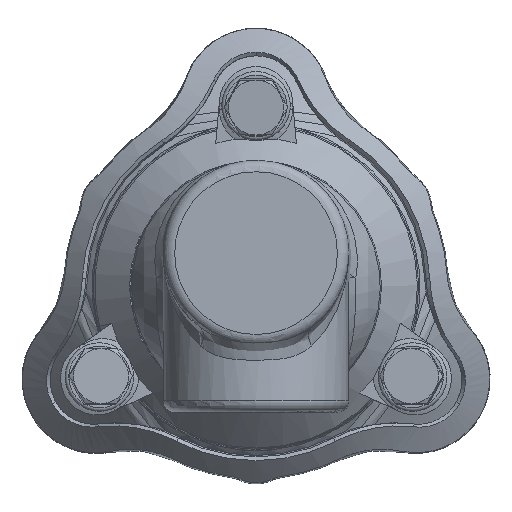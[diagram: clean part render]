
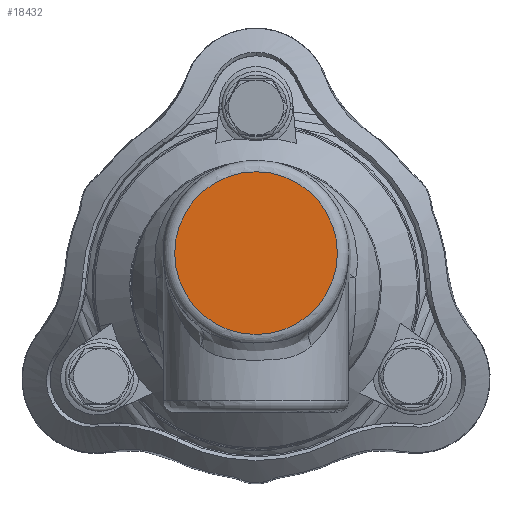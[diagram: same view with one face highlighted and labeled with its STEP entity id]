
A CAD part, top view. The second image highlights one B-rep face of the part: STEP entity #18432.
In plain terms, the highlighted planar face has unit normal (0, 0, 1).
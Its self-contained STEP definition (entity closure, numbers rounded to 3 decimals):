
#255 = CARTESIAN_POINT ( 'NONE',  ( 35.5, 14.369, 86. ) ) ;
#377 = AXIS2_PLACEMENT_3D ( 'NONE', #13303, #13304, #13305 ) ;
#7049 = EDGE_CURVE ( 'NONE', #15371, #15371, #11452, .T. ) ;
#8248 = CARTESIAN_POINT ( 'NONE',  ( 0., 14.369, 86. ) ) ;
#8252 = PLANE ( 'NONE',  #8646 ) ;
#8319 = DIRECTION ( 'NONE',  ( 0., 0., 1. ) ) ;
#8320 = DIRECTION ( 'NONE',  ( 1., 0., 0. ) ) ;
#8646 = AXIS2_PLACEMENT_3D ( 'NONE', #8248, #8319, #8320 ) ;
#9031 = EDGE_LOOP ( 'NONE', ( #9391 ) ) ;
#9391 = ORIENTED_EDGE ( 'NONE', *, *, #7049, .T. ) ;
#11452 = CIRCLE ( 'NONE', #377, 35.5 ) ;
#13303 = CARTESIAN_POINT ( 'NONE',  ( 0., 14.369, 86. ) ) ;
#13304 = DIRECTION ( 'NONE',  ( 0., 0., 1. ) ) ;
#13305 = DIRECTION ( 'NONE',  ( 1., 0., 0. ) ) ;
#14864 = FACE_OUTER_BOUND ( 'NONE', #9031, .T. ) ;
#15371 = VERTEX_POINT ( 'NONE', #255 ) ;
#18432 = ADVANCED_FACE ( 'NONE', ( #14864 ), #8252, .T. ) ;
